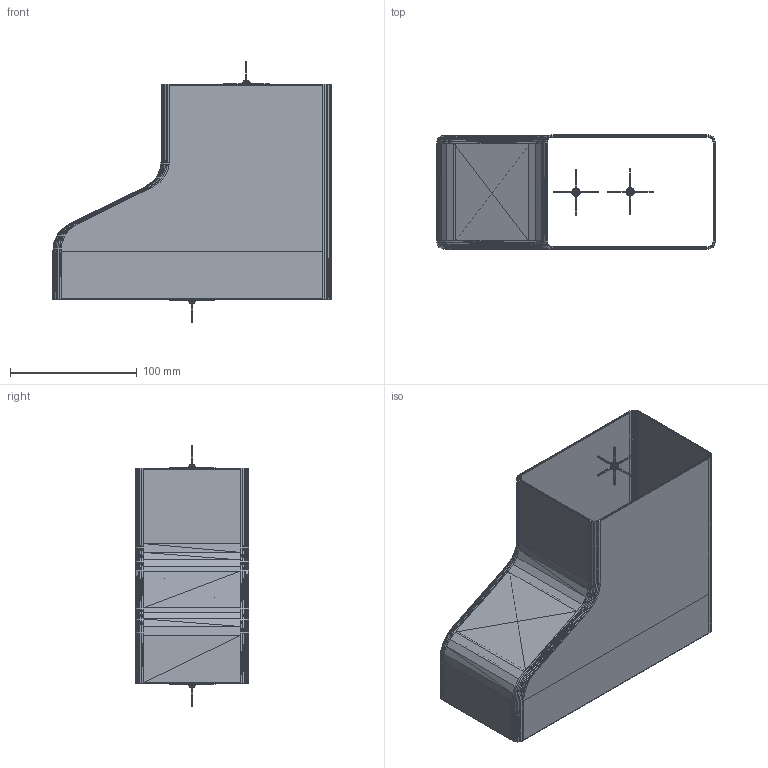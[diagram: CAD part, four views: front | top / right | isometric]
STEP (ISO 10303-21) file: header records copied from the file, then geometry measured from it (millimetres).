
FILE_DESCRIPTION(('FreeCAD Model'),'2;1');
FILE_NAME('Open CASCADE Shape Model','2024-04-12T17:53:00',('Author'),( ''),'Open CASCADE STEP processor 7.6','FreeCAD','Unknown');
FILE_SCHEMA(('AUTOMOTIVE_DESIGN { 1 0 10303 214 1 1 1 1 }'));
Length unit declared in the file: millimetre
Products named in the file (4): Unnamed; Tube_square_002 (Solid); _Cross_b_002 (Solid); _Cross_f_002 (Solid)
Assembly tree (3 placements, depth 2):
  Unnamed
    Tube_square_002 (Solid)
    _Cross_b_002 (Solid)
    _Cross_f_002 (Solid)
Bounding box: 220 x 90 x 206.42 mm (x, y, z)
Volume: 145117.8 mm3; surface area: 183313.3 mm2
Topology: 3 solids, 3 shells, 4017 faces, 6437 edges, 2425 vertices
Faces by surface type: plane 4017
Entity records: 82155 total; most frequent: DIRECTION 14479, CARTESIAN_POINT 12883, ORIENTED_EDGE 12874, EDGE_CURVE 6437, LINE 6437, VECTOR 6437, AXIS2_PLACEMENT_3D 4021, FACE_BOUND 4018
